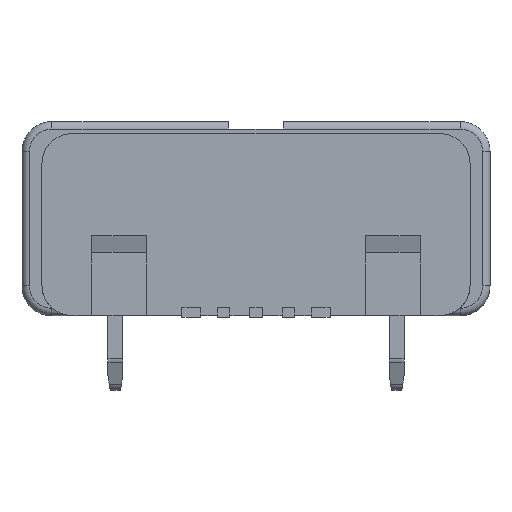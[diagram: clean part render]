
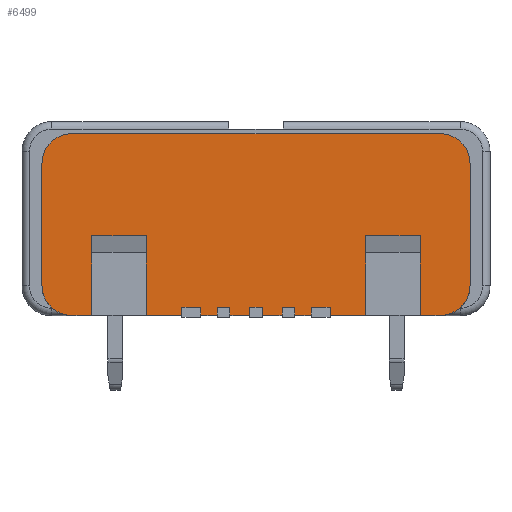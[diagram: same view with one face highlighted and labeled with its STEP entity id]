
A CAD part, top view. The second image highlights one B-rep face of the part: STEP entity #6499.
In plain terms, the highlighted planar face has unit normal (0, 0, 1).
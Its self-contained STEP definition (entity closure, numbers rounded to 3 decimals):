
#719=DIRECTION('',(0.,1.,0.));
#720=VECTOR('',#719,0.16);
#721=CARTESIAN_POINT('',(-1.49,-1.87,5.75));
#722=LINE('',#721,#720);
#736=DIRECTION('',(-1.,0.,0.));
#737=VECTOR('',#736,0.71);
#738=CARTESIAN_POINT('',(-1.49,-1.87,5.75));
#739=LINE('',#738,#737);
#740=DIRECTION('',(-1.,0.,0.));
#741=VECTOR('',#740,0.4);
#742=CARTESIAN_POINT('',(-3.3,-1.87,5.75));
#743=LINE('',#742,#741);
#744=CARTESIAN_POINT('',(-3.7,-1.27,5.75));
#745=DIRECTION('',(0.,0.,-1.));
#746=DIRECTION('',(0.,-1.,0.));
#747=AXIS2_PLACEMENT_3D('',#744,#745,#746);
#749=DIRECTION('',(0.,1.,0.));
#750=VECTOR('',#749,2.45);
#751=CARTESIAN_POINT('',(-4.3,-1.27,5.75));
#752=LINE('',#751,#750);
#753=CARTESIAN_POINT('',(-3.7,1.18,5.75));
#754=DIRECTION('',(0.,0.,-1.));
#755=DIRECTION('',(-1.,0.,0.));
#756=AXIS2_PLACEMENT_3D('',#753,#754,#755);
#758=DIRECTION('',(1.,0.,0.));
#759=VECTOR('',#758,7.4);
#760=CARTESIAN_POINT('',(-3.7,1.78,5.75));
#761=LINE('',#760,#759);
#762=CARTESIAN_POINT('',(3.7,1.18,5.75));
#763=DIRECTION('',(0.,0.,-1.));
#764=DIRECTION('',(0.,1.,0.));
#765=AXIS2_PLACEMENT_3D('',#762,#763,#764);
#767=DIRECTION('',(0.,-1.,0.));
#768=VECTOR('',#767,2.45);
#769=CARTESIAN_POINT('',(4.3,1.18,5.75));
#770=LINE('',#769,#768);
#771=CARTESIAN_POINT('',(3.7,-1.27,5.75));
#772=DIRECTION('',(0.,0.,-1.));
#773=DIRECTION('',(1.,0.,0.));
#774=AXIS2_PLACEMENT_3D('',#771,#772,#773);
#776=DIRECTION('',(-1.,0.,0.));
#777=VECTOR('',#776,0.4);
#778=CARTESIAN_POINT('',(3.7,-1.87,5.75));
#779=LINE('',#778,#777);
#780=DIRECTION('',(-1.,0.,0.));
#781=VECTOR('',#780,0.71);
#782=CARTESIAN_POINT('',(2.2,-1.87,5.75));
#783=LINE('',#782,#781);
#784=DIRECTION('',(0.,1.,0.));
#785=VECTOR('',#784,0.16);
#786=CARTESIAN_POINT('',(1.49,-1.87,5.75));
#787=LINE('',#786,#785);
#788=DIRECTION('',(-1.,0.,0.));
#789=VECTOR('',#788,0.335);
#790=CARTESIAN_POINT('',(1.11,-1.87,5.75));
#791=LINE('',#790,#789);
#792=DIRECTION('',(0.,1.,0.));
#793=VECTOR('',#792,0.16);
#794=CARTESIAN_POINT('',(0.775,-1.87,5.75));
#795=LINE('',#794,#793);
#796=DIRECTION('',(-1.,0.,0.));
#797=VECTOR('',#796,0.4);
#798=CARTESIAN_POINT('',(0.525,-1.87,5.75));
#799=LINE('',#798,#797);
#800=DIRECTION('',(0.,1.,0.));
#801=VECTOR('',#800,0.16);
#802=CARTESIAN_POINT('',(0.125,-1.87,5.75));
#803=LINE('',#802,#801);
#804=DIRECTION('',(-1.,0.,0.));
#805=VECTOR('',#804,0.4);
#806=CARTESIAN_POINT('',(-0.125,-1.87,5.75));
#807=LINE('',#806,#805);
#808=DIRECTION('',(0.,1.,0.));
#809=VECTOR('',#808,0.16);
#810=CARTESIAN_POINT('',(-0.525,-1.87,5.75));
#811=LINE('',#810,#809);
#812=DIRECTION('',(-1.,0.,0.));
#813=VECTOR('',#812,0.335);
#814=CARTESIAN_POINT('',(-0.775,-1.87,5.75));
#815=LINE('',#814,#813);
#816=DIRECTION('',(0.,1.,0.));
#817=VECTOR('',#816,0.16);
#818=CARTESIAN_POINT('',(-1.11,-1.87,5.75));
#819=LINE('',#818,#817);
#820=DIRECTION('',(1.,0.,0.));
#821=VECTOR('',#820,0.38);
#822=CARTESIAN_POINT('',(-1.49,-1.71,5.75));
#823=LINE('',#822,#821);
#848=DIRECTION('',(0.,-1.,0.));
#849=VECTOR('',#848,1.6);
#850=CARTESIAN_POINT('',(-2.2,-0.27,5.75));
#851=LINE('',#850,#849);
#864=DIRECTION('',(0.,1.,0.));
#865=VECTOR('',#864,1.6);
#866=CARTESIAN_POINT('',(-3.3,-1.87,5.75));
#867=LINE('',#866,#865);
#888=DIRECTION('',(1.,0.,0.));
#889=VECTOR('',#888,1.1);
#890=CARTESIAN_POINT('',(-3.3,-0.27,5.75));
#891=LINE('',#890,#889);
#1659=DIRECTION('',(0.,-1.,0.));
#1660=VECTOR('',#1659,1.6);
#1661=CARTESIAN_POINT('',(3.3,-0.27,5.75));
#1662=LINE('',#1661,#1660);
#1675=DIRECTION('',(0.,1.,0.));
#1676=VECTOR('',#1675,1.6);
#1677=CARTESIAN_POINT('',(2.2,-1.87,5.75));
#1678=LINE('',#1677,#1676);
#1699=DIRECTION('',(1.,0.,0.));
#1700=VECTOR('',#1699,1.1);
#1701=CARTESIAN_POINT('',(2.2,-0.27,5.75));
#1702=LINE('',#1701,#1700);
#1724=DIRECTION('',(0.,1.,0.));
#1725=VECTOR('',#1724,0.16);
#1726=CARTESIAN_POINT('',(1.11,-1.87,5.75));
#1727=LINE('',#1726,#1725);
#1741=DIRECTION('',(1.,0.,0.));
#1742=VECTOR('',#1741,0.38);
#1743=CARTESIAN_POINT('',(1.11,-1.71,5.75));
#1744=LINE('',#1743,#1742);
#1786=DIRECTION('',(0.,1.,0.));
#1787=VECTOR('',#1786,0.16);
#1788=CARTESIAN_POINT('',(0.525,-1.87,5.75));
#1789=LINE('',#1788,#1787);
#1799=DIRECTION('',(1.,0.,0.));
#1800=VECTOR('',#1799,0.25);
#1801=CARTESIAN_POINT('',(0.525,-1.71,5.75));
#1802=LINE('',#1801,#1800);
#1844=DIRECTION('',(0.,1.,0.));
#1845=VECTOR('',#1844,0.16);
#1846=CARTESIAN_POINT('',(-0.125,-1.87,5.75));
#1847=LINE('',#1846,#1845);
#1857=DIRECTION('',(1.,0.,0.));
#1858=VECTOR('',#1857,0.25);
#1859=CARTESIAN_POINT('',(-0.125,-1.71,5.75));
#1860=LINE('',#1859,#1858);
#1902=DIRECTION('',(0.,1.,0.));
#1903=VECTOR('',#1902,0.16);
#1904=CARTESIAN_POINT('',(-0.775,-1.87,5.75));
#1905=LINE('',#1904,#1903);
#1915=DIRECTION('',(1.,0.,0.));
#1916=VECTOR('',#1915,0.25);
#1917=CARTESIAN_POINT('',(-0.775,-1.71,5.75));
#1918=LINE('',#1917,#1916);
#4496=CARTESIAN_POINT('',(-1.11,-1.87,5.75));
#4498=VERTEX_POINT('',#4496);
#4499=CARTESIAN_POINT('',(-0.775,-1.87,5.75));
#4500=VERTEX_POINT('',#4499);
#4505=CARTESIAN_POINT('',(-0.525,-1.87,5.75));
#4506=VERTEX_POINT('',#4505);
#4507=CARTESIAN_POINT('',(-0.125,-1.87,5.75));
#4508=VERTEX_POINT('',#4507);
#4513=CARTESIAN_POINT('',(0.125,-1.87,5.75));
#4514=VERTEX_POINT('',#4513);
#4515=CARTESIAN_POINT('',(0.525,-1.87,5.75));
#4516=VERTEX_POINT('',#4515);
#4521=CARTESIAN_POINT('',(0.775,-1.87,5.75));
#4522=VERTEX_POINT('',#4521);
#4523=CARTESIAN_POINT('',(1.11,-1.87,5.75));
#4524=VERTEX_POINT('',#4523);
#4529=CARTESIAN_POINT('',(1.49,-1.87,5.75));
#4530=VERTEX_POINT('',#4529);
#4531=CARTESIAN_POINT('',(2.2,-1.87,5.75));
#4532=VERTEX_POINT('',#4531);
#4537=CARTESIAN_POINT('',(3.3,-1.87,5.75));
#4538=VERTEX_POINT('',#4537);
#4539=CARTESIAN_POINT('',(3.7,-1.87,5.75));
#4540=VERTEX_POINT('',#4539);
#4547=CARTESIAN_POINT('',(-3.7,-1.87,5.75));
#4548=VERTEX_POINT('',#4547);
#4549=CARTESIAN_POINT('',(-3.3,-1.87,5.75));
#4550=VERTEX_POINT('',#4549);
#4555=CARTESIAN_POINT('',(-2.2,-1.87,5.75));
#4556=VERTEX_POINT('',#4555);
#4557=CARTESIAN_POINT('',(-1.49,-1.87,5.75));
#4558=VERTEX_POINT('',#4557);
#4583=CARTESIAN_POINT('',(-1.11,-1.71,5.75));
#4584=VERTEX_POINT('',#4583);
#4587=CARTESIAN_POINT('',(-1.49,-1.71,5.75));
#4588=VERTEX_POINT('',#4587);
#4593=CARTESIAN_POINT('',(-2.2,-0.27,5.75));
#4594=VERTEX_POINT('',#4593);
#4595=CARTESIAN_POINT('',(-3.3,-0.27,5.75));
#4596=VERTEX_POINT('',#4595);
#4597=CARTESIAN_POINT('',(-4.3,-1.27,5.75));
#4598=VERTEX_POINT('',#4597);
#4599=CARTESIAN_POINT('',(-4.3,1.18,5.75));
#4600=VERTEX_POINT('',#4599);
#4601=CARTESIAN_POINT('',(-3.7,1.78,5.75));
#4602=VERTEX_POINT('',#4601);
#4603=CARTESIAN_POINT('',(3.7,1.78,5.75));
#4604=VERTEX_POINT('',#4603);
#4605=CARTESIAN_POINT('',(4.3,1.18,5.75));
#4606=VERTEX_POINT('',#4605);
#4607=CARTESIAN_POINT('',(4.3,-1.27,5.75));
#4608=VERTEX_POINT('',#4607);
#4609=CARTESIAN_POINT('',(3.3,-0.27,5.75));
#4610=VERTEX_POINT('',#4609);
#4611=CARTESIAN_POINT('',(2.2,-0.27,5.75));
#4612=VERTEX_POINT('',#4611);
#4613=CARTESIAN_POINT('',(1.49,-1.71,5.75));
#4614=VERTEX_POINT('',#4613);
#4615=CARTESIAN_POINT('',(1.11,-1.71,5.75));
#4616=VERTEX_POINT('',#4615);
#4617=CARTESIAN_POINT('',(0.775,-1.71,5.75));
#4618=VERTEX_POINT('',#4617);
#4619=CARTESIAN_POINT('',(0.525,-1.71,5.75));
#4620=VERTEX_POINT('',#4619);
#4621=CARTESIAN_POINT('',(0.125,-1.71,5.75));
#4622=VERTEX_POINT('',#4621);
#4623=CARTESIAN_POINT('',(-0.125,-1.71,5.75));
#4624=VERTEX_POINT('',#4623);
#4625=CARTESIAN_POINT('',(-0.525,-1.71,5.75));
#4626=VERTEX_POINT('',#4625);
#4627=CARTESIAN_POINT('',(-0.775,-1.71,5.75));
#4628=VERTEX_POINT('',#4627);
#6430=CARTESIAN_POINT('',(0.,-0.045,5.75));
#6431=DIRECTION('',(0.,0.,1.));
#6432=DIRECTION('',(0.,1.,0.));
#6433=AXIS2_PLACEMENT_3D('',#6430,#6431,#6432);
#6434=PLANE('',#6433);
#6436=ORIENTED_EDGE('',*,*,#6435,.F.);
#6437=ORIENTED_EDGE('',*,*,#6418,.F.);
#6438=ORIENTED_EDGE('',*,*,#6350,.T.);
#6440=ORIENTED_EDGE('',*,*,#6439,.F.);
#6442=ORIENTED_EDGE('',*,*,#6441,.F.);
#6444=ORIENTED_EDGE('',*,*,#6443,.F.);
#6445=ORIENTED_EDGE('',*,*,#6342,.T.);
#6447=ORIENTED_EDGE('',*,*,#6446,.T.);
#6449=ORIENTED_EDGE('',*,*,#6448,.T.);
#6451=ORIENTED_EDGE('',*,*,#6450,.T.);
#6453=ORIENTED_EDGE('',*,*,#6452,.T.);
#6455=ORIENTED_EDGE('',*,*,#6454,.T.);
#6457=ORIENTED_EDGE('',*,*,#6456,.T.);
#6459=ORIENTED_EDGE('',*,*,#6458,.T.);
#6460=ORIENTED_EDGE('',*,*,#6328,.T.);
#6462=ORIENTED_EDGE('',*,*,#6461,.F.);
#6464=ORIENTED_EDGE('',*,*,#6463,.F.);
#6466=ORIENTED_EDGE('',*,*,#6465,.F.);
#6467=ORIENTED_EDGE('',*,*,#6320,.T.);
#6469=ORIENTED_EDGE('',*,*,#6468,.T.);
#6471=ORIENTED_EDGE('',*,*,#6470,.F.);
#6473=ORIENTED_EDGE('',*,*,#6472,.F.);
#6474=ORIENTED_EDGE('',*,*,#6312,.T.);
#6476=ORIENTED_EDGE('',*,*,#6475,.T.);
#6478=ORIENTED_EDGE('',*,*,#6477,.F.);
#6480=ORIENTED_EDGE('',*,*,#6479,.F.);
#6481=ORIENTED_EDGE('',*,*,#6304,.T.);
#6483=ORIENTED_EDGE('',*,*,#6482,.T.);
#6485=ORIENTED_EDGE('',*,*,#6484,.F.);
#6487=ORIENTED_EDGE('',*,*,#6486,.F.);
#6488=ORIENTED_EDGE('',*,*,#6296,.T.);
#6490=ORIENTED_EDGE('',*,*,#6489,.T.);
#6492=ORIENTED_EDGE('',*,*,#6491,.F.);
#6494=ORIENTED_EDGE('',*,*,#6493,.F.);
#6495=ORIENTED_EDGE('',*,*,#6288,.T.);
#6496=ORIENTED_EDGE('',*,*,#6393,.T.);
#6497=EDGE_LOOP('',(#6436,#6437,#6438,#6440,#6442,#6444,#6445,#6447,#6449,#6451,
#6453,#6455,#6457,#6459,#6460,#6462,#6464,#6466,#6467,#6469,#6471,#6473,#6474,
#6476,#6478,#6480,#6481,#6483,#6485,#6487,#6488,#6490,#6492,#6494,#6495,#6496));
#6498=FACE_OUTER_BOUND('',#6497,.F.);
#748=CIRCLE('',#747,0.6);
#757=CIRCLE('',#756,0.6);
#766=CIRCLE('',#765,0.6);
#775=CIRCLE('',#774,0.6);
#6288=EDGE_CURVE('',#4500,#4498,#815,.T.);
#6296=EDGE_CURVE('',#4508,#4506,#807,.T.);
#6304=EDGE_CURVE('',#4516,#4514,#799,.T.);
#6312=EDGE_CURVE('',#4524,#4522,#791,.T.);
#6320=EDGE_CURVE('',#4532,#4530,#783,.T.);
#6328=EDGE_CURVE('',#4540,#4538,#779,.T.);
#6342=EDGE_CURVE('',#4550,#4548,#743,.T.);
#6350=EDGE_CURVE('',#4558,#4556,#739,.T.);
#6393=EDGE_CURVE('',#4498,#4584,#819,.T.);
#6418=EDGE_CURVE('',#4558,#4588,#722,.T.);
#6435=EDGE_CURVE('',#4588,#4584,#823,.T.);
#6439=EDGE_CURVE('',#4594,#4556,#851,.T.);
#6441=EDGE_CURVE('',#4596,#4594,#891,.T.);
#6443=EDGE_CURVE('',#4550,#4596,#867,.T.);
#6446=EDGE_CURVE('',#4548,#4598,#748,.T.);
#6448=EDGE_CURVE('',#4598,#4600,#752,.T.);
#6450=EDGE_CURVE('',#4600,#4602,#757,.T.);
#6452=EDGE_CURVE('',#4602,#4604,#761,.T.);
#6454=EDGE_CURVE('',#4604,#4606,#766,.T.);
#6456=EDGE_CURVE('',#4606,#4608,#770,.T.);
#6458=EDGE_CURVE('',#4608,#4540,#775,.T.);
#6461=EDGE_CURVE('',#4610,#4538,#1662,.T.);
#6463=EDGE_CURVE('',#4612,#4610,#1702,.T.);
#6465=EDGE_CURVE('',#4532,#4612,#1678,.T.);
#6468=EDGE_CURVE('',#4530,#4614,#787,.T.);
#6470=EDGE_CURVE('',#4616,#4614,#1744,.T.);
#6472=EDGE_CURVE('',#4524,#4616,#1727,.T.);
#6475=EDGE_CURVE('',#4522,#4618,#795,.T.);
#6477=EDGE_CURVE('',#4620,#4618,#1802,.T.);
#6479=EDGE_CURVE('',#4516,#4620,#1789,.T.);
#6482=EDGE_CURVE('',#4514,#4622,#803,.T.);
#6484=EDGE_CURVE('',#4624,#4622,#1860,.T.);
#6486=EDGE_CURVE('',#4508,#4624,#1847,.T.);
#6489=EDGE_CURVE('',#4506,#4626,#811,.T.);
#6491=EDGE_CURVE('',#4628,#4626,#1918,.T.);
#6493=EDGE_CURVE('',#4500,#4628,#1905,.T.);
#6499=ADVANCED_FACE('',(#6498),#6434,.T.);
